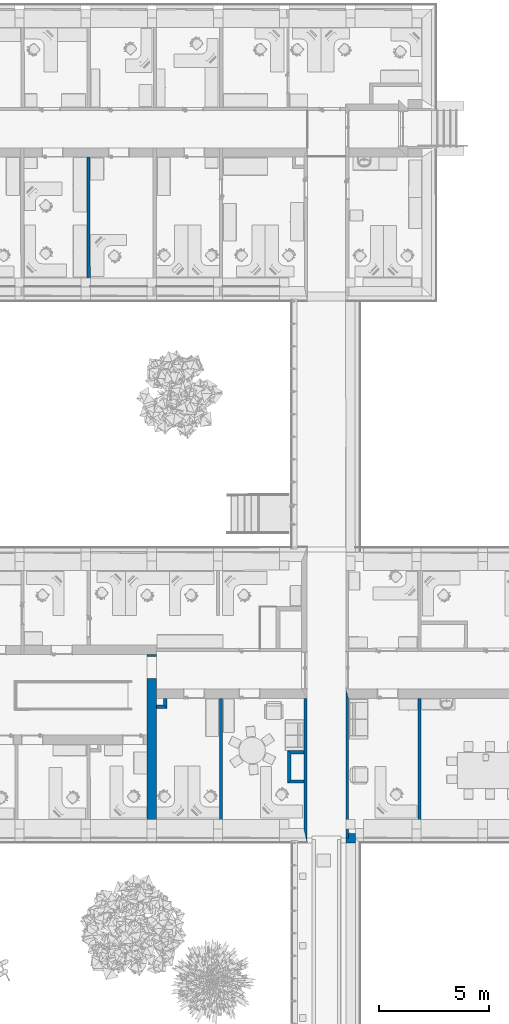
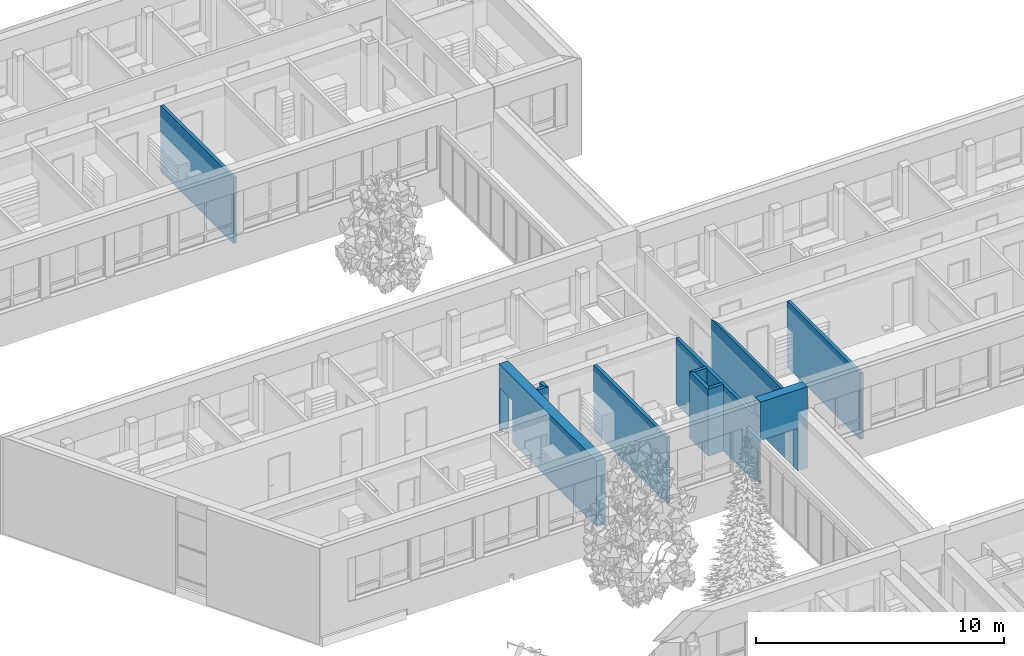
# One storey, part 12 of 194: 12 walls, 2 openings.
"""IFC2X3 building model written with IfcOpenShell, lengths in millimetres."""

from ifc_helpers import new_model, entity, si_unit, converted_unit, derived_unit, money_unit, direction, frame, origin_with_axes, origin_2d_with_axis, place, context, subcontext, project, spatial, polyline, rectangle, outline, extrude, material, layer, layer_set, layer_usage, type_object, element, save


model = new_model("IFC2X3")

# Units and contexts
model_context = context("Model", 3, precision=1e-05, world=origin_with_axes(), true_north=direction((0.0, 1.0)))
body_context = subcontext(model_context, "Body", "Model", "MODEL_VIEW")
ifc_project = project(units=[si_unit("LENGTHUNIT", "METRE", prefix="MILLI"), si_unit("AREAUNIT", "SQUARE_METRE"), si_unit("VOLUMEUNIT", "CUBIC_METRE"), converted_unit("PLANEANGLEUNIT", "DEGREE", entity("IfcPlaneAngleMeasure", 0.0174532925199), si_unit("PLANEANGLEUNIT", "RADIAN"), dimensions=[0, 0, 0, 0, 0, 0, 0]), si_unit("SOLIDANGLEUNIT", "STERADIAN"), money_unit("EUR"), converted_unit("TIMEUNIT", "Year", entity("IfcTimeMeasure", 31556926.0), si_unit("TIMEUNIT", "SECOND"), dimensions=[0, 0, 1, 0, 0, 0, 0]), si_unit("MASSUNIT", "GRAM", prefix="KILO"), si_unit("THERMODYNAMICTEMPERATUREUNIT", "DEGREE_CELSIUS"), si_unit("LUMINOUSINTENSITYUNIT", "LUMEN"), si_unit("ENERGYUNIT", "JOULE", prefix="MEGA"), derived_unit("THERMALCONDUCTANCEUNIT", [(si_unit("POWERUNIT", "WATT"), 1), (si_unit("LENGTHUNIT", "METRE"), -1), (si_unit("THERMODYNAMICTEMPERATUREUNIT", "KELVIN"), -1)]), derived_unit("SPECIFICHEATCAPACITYUNIT", [(si_unit("ENERGYUNIT", "JOULE"), 1), (si_unit("MASSUNIT", "GRAM", prefix="KILO"), -1), (si_unit("THERMODYNAMICTEMPERATUREUNIT", "KELVIN"), -1)]), derived_unit("MASSDENSITYUNIT", [(si_unit("MASSUNIT", "GRAM", prefix="KILO"), 1), (si_unit("VOLUMEUNIT", "CUBIC_METRE"), -1)])], contexts=[model_context])

# Site, building, storey
site_placement = place(None, origin_with_axes())
site = spatial("IfcSite", under=ifc_project, at=site_placement, Name="Site", CompositionType="ELEMENT")
building_placement = place(site_placement, origin_with_axes())
building = spatial("IfcBuilding", under=site, at=building_placement, Name="Building", CompositionType="ELEMENT")
storey_placement = place(building_placement, frame((0.0, 0.0, 3000.0), z_axis=(0.0, 0.0, 1.0), x_axis=(1.0, 0.0, 0.0)))
storey = spatial("IfcBuildingStorey", under=building, at=storey_placement, Name="2 KORRUS", CompositionType="ELEMENT", Elevation=3000.0)

# Wall
ifc_material_1 = material(Name="Kivi -Ol.Olev Konstruktsioon")
ifc_layer_1 = layer(ifc_material_1, 150.0, ventilated="UNKNOWN")
ifc_layer_set_1 = layer_set([ifc_layer_1], Name="ol.olev ss 150")
ifc_layer_usage_1 = layer_usage(ifc_layer_set_1, "AXIS2", "NEGATIVE", 0.0)
wall_type_1 = type_object("IfcWallType", Name="SW - 022", PredefinedType="NOTDEFINED")
wall_1_placement = place(storey_placement, frame((28150.3491742, 65630.0283559, 0.0), z_axis=(0.0, 0.0, 1.0), x_axis=(0.000613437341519, -0.999999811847, 0.0)))
element("IfcWallStandardCase", 1, at=wall_1_placement, inside=storey, type_object=wall_type_1, material=ifc_layer_usage_1, Name="ol.olev ss 150", context=body_context, shape_type="SweptSolid", body=[
    extrude(outline(polyline([(419.908063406, -150.0), (6292.32271742, -150.0), (6292.39356159, 0.0), (420.000079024, 0.0), (419.908063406, -150.0)])), origin_with_axes(), (0.0, 0.0, 1.0), 3250.0),
])

# Wall, opening
ifc_layer_2 = layer(ifc_material_1, 420.0, ventilated="UNKNOWN")
ifc_layer_set_2 = layer_set([ifc_layer_2], Name="ol.olev ss 420")
ifc_layer_usage_2 = layer_usage(ifc_layer_set_2, "AXIS2", "POSITIVE", -420.0)
wall_2_placement = place(storey_placement, frame((30735.3687563, 34350.7085621, 0.0), z_axis=(0.0, 0.0, 1.0), x_axis=(0.0, 1.0, 0.0)))
wall_2 = element("IfcWallStandardCase", 2, at=wall_2_placement, inside=storey, type_object=wall_type_1, material=ifc_layer_usage_2, Name="ol.olev ss 420", context=body_context, shape_type="SweptSolid", body=[
    extrude(outline(polyline([(430.035803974, -420.0), (8319.83355742, -420.0), (8319.49869607, 0.0), (430.000001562, 0.0), (430.035803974, -420.0)])), origin_with_axes(), (0.0, 0.0, 1.0), 3250.0),
])
opening_1_placement = place(wall_2_placement, frame((7721.8960895, 0.0, 0.0), z_axis=(0.0, 0.0, 1.0), x_axis=(1.0, 0.0, 0.0)))
element("IfcOpeningElement", 3, at=opening_1_placement, cuts=wall_2, Name="Background;  Objekti nimi: Simple Door Opening", context=body_context, shape_type="SweptSolid", body=[
    extrude(rectangle(XDim=1000.0, YDim=2100.0, at=origin_2d_with_axis()), frame((0.0, 0.0, 1050.0), z_axis=(0.0, -1.0, 0.0), x_axis=(1.0, 0.0, 0.0)), (0.0, 0.0, -1.0), 420.0),
    extrude(rectangle(XDim=1000.0, YDim=2100.0, at=origin_2d_with_axis()), frame((0.0, 0.0, 1050.0), z_axis=(0.0, 1.0, 0.0), x_axis=(1.0, 0.0, 0.0)), (0.0, 0.0, -1.0), 420.0),
])

# Walls
ifc_layer_usage_3 = layer_usage(ifc_layer_set_1, "AXIS2", "NEGATIVE", 0.0)
wall_3_placement = place(storey_placement, frame((43155.2200364, 41101.6242698, 0.0), z_axis=(0.0, 0.0, 1.0), x_axis=(0.0, -1.0, 0.0)))
element("IfcWallStandardCase", 4, at=wall_3_placement, inside=storey, type_object=wall_type_1, material=ifc_layer_usage_3, Name="ol.olev ss 150", context=body_context, shape_type="SweptSolid", body=[
    extrude(outline(polyline([(420.0, -150.0), (6319.81045634, -150.0), (6319.79766976, 0.0), (420.0, 0.0), (420.0, -150.0)])), origin_with_axes(), (0.0, 0.0, 1.0), 3250.0),
])
ifc_layer_3 = layer(ifc_material_1, 120.0, ventilated="UNKNOWN")
ifc_layer_set_3 = layer_set([ifc_layer_3], Name="ol.olev ss 120")
ifc_layer_usage_4 = layer_usage(ifc_layer_set_3, "AXIS2", "POSITIVE", 0.0)
wall_4_placement = place(storey_placement, frame((39735.1743177, 41101.6242698, 0.0), z_axis=(0.0, 0.0, 1.0), x_axis=(0.0, -1.0, 0.0)))
element("IfcWallStandardCase", 5, at=wall_4_placement, inside=storey, type_object=wall_type_1, material=ifc_layer_usage_4, Name="ol.olev ss 120", context=body_context, shape_type="SweptSolid", body=[
    extrude(outline(polyline([(0.0, 0.0), (6750.37976661, 0.0), (6750.37976661, 120.0), (420.0, 120.0), (0.0, 0.0)])), origin_with_axes(), (0.0, 0.0, 1.0), 3250.0),
])
ifc_layer_usage_5 = layer_usage(ifc_layer_set_1, "AXIS2", "NEGATIVE", 0.0)
wall_5_placement = place(storey_placement, frame((37983.8520141, 41101.6242698, 0.0), z_axis=(0.0, 0.0, 1.0), x_axis=(0.0, -1.0, 0.0)))
element("IfcWallStandardCase", 6, at=wall_5_placement, inside=storey, type_object=wall_type_1, material=ifc_layer_usage_5, Name="ol.olev ss 150", context=body_context, shape_type="SweptSolid", body=[
    extrude(outline(polyline([(420.0, -150.0), (6320.31060425, -150.0), (6970.29782003, 0.0), (420.0, 0.0), (420.0, -150.0)])), origin_with_axes(), (0.0, 0.0, 1.0), 3250.0),
])
ifc_layer_usage_6 = layer_usage(ifc_layer_set_1, "AXIS2", "NEGATIVE", 0.0)
wall_6_placement = place(storey_placement, frame((34155.2433806, 41101.6242698, 0.0), z_axis=(0.0, 0.0, 1.0), x_axis=(-1.16660409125e-05, -0.999999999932, 0.0)))
element("IfcWallStandardCase", 7, at=wall_6_placement, inside=storey, type_object=wall_type_1, material=ifc_layer_usage_6, Name="ol.olev ss 150", context=body_context, shape_type="SweptSolid", body=[
    extrude(outline(polyline([(420.001749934, -150.0), (6320.63872616, -150.0), (6320.62418967, 0.0), (420.000000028, 0.0), (420.001749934, -150.0)])), origin_with_axes(), (0.0, 0.0, 1.0), 3250.0),
])

# Wall, opening
ifc_layer_usage_7 = layer_usage(ifc_layer_set_2, "AXIS2", "POSITIVE", 0.0)
wall_7_placement = place(storey_placement, frame((37983.8707677, 34131.3264514, 0.0), z_axis=(0.0, 0.0, 1.0), x_axis=(1.0, 0.0, 0.0)))
wall_7 = element("IfcWallStandardCase", 8, at=wall_7_placement, inside=storey, type_object=wall_type_1, material=ifc_layer_usage_7, Name="ol.olev ss 420", context=body_context, shape_type="SweptSolid", body=[
    extrude(outline(polyline([(0.0, 0.0), (2180.59106043, 0.0), (2180.59106043, 420.0), (0.0, 420.0), (0.0, 0.0)])), origin_with_axes(), (0.0, 0.0, 1.0), 4000.0),
])
opening_2_placement = place(wall_7_placement, frame((875.22967789, 0.0, 0.0), z_axis=(0.0, 0.0, 1.0), x_axis=(1.0, 0.0, 0.0)))
element("IfcOpeningElement", 9, at=opening_2_placement, cuts=wall_7, Name="Background;  Objekti nimi: Rectangular Door Opening 22", context=body_context, shape_type="SweptSolid", body=[
    extrude(rectangle(XDim=1750.49515819, YDim=2100.0, at=origin_2d_with_axis()), frame((0.0, 420.0, 1050.0), z_axis=(0.0, 1.0, 0.0), x_axis=(-1.0, 0.0, 0.0)), (0.0, 0.0, -1.0), 1260.0),
])

# Walls
ifc_material_2 = material(Name="Kivi -  Uus Konstruktsioon")
ifc_layer_4 = layer(ifc_material_2, 150.0, ventilated="UNKNOWN")
ifc_layer_set_4 = layer_set([ifc_layer_4], Name="uus ss 150")
ifc_layer_usage_8 = layer_usage(ifc_layer_set_4, "AXIS2", "NEGATIVE", 0.0)
wall_type_2 = type_object("IfcWallType", Name="SS-1", PredefinedType="NOTDEFINED")
wall_8_placement = place(storey_placement, frame((30735.3687563, 40378.5680471, 0.0), z_axis=(0.0, 0.0, 1.0), x_axis=(1.0, 0.0, 0.0)))
element("IfcWallStandardCase", 10, at=wall_8_placement, inside=storey, type_object=wall_type_2, material=ifc_layer_usage_8, Name="sahti sein", context=body_context, shape_type="SweptSolid", body=[
    extrude(outline(polyline([(420.0, -150.0), (898.19584534, -150.0), (748.19584534, 0.0), (420.0, 0.0), (420.0, -150.0)])), origin_with_axes(), (0.0, 0.0, 1.0), 3294.8304041),
])
ifc_layer_usage_9 = layer_usage(ifc_layer_set_4, "AXIS2", "NEGATIVE", 0.0)
wall_9_placement = place(storey_placement, frame((31483.5646016, 40378.5680471, 0.0), z_axis=(0.0, 0.0, 1.0), x_axis=(0.0, 1.0, 0.0)))
element("IfcWallStandardCase", 11, at=wall_9_placement, inside=storey, type_object=wall_type_2, material=ifc_layer_usage_9, Name="sahti sein", context=body_context, shape_type="SweptSolid", body=[
    extrude(outline(polyline([(-150.0, -150.0), (303.056222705, -150.0), (303.056222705, 0.0), (0.0, 0.0), (-150.0, -150.0)])), origin_with_axes(), (0.0, 0.0, 1.0), 3294.8304041),
])
ifc_layer_usage_10 = layer_usage(ifc_layer_set_4, "AXIS2", "NEGATIVE", 0.0)
wall_10_placement = place(storey_placement, frame((37983.8520141, 36838.4328024, 0.0), z_axis=(0.0, 0.0, 1.0), x_axis=(-1.0, 0.0, 0.0)))
element("IfcWallStandardCase", 12, at=wall_10_placement, inside=storey, type_object=wall_type_2, material=ifc_layer_usage_10, Name="sahti sein", context=body_context, shape_type="SweptSolid", body=[
    extrude(outline(polyline([(150.0, -150.0), (729.941688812, -150.0), (879.941688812, 0.0), (150.0, 0.0), (150.0, -150.0)])), origin_with_axes(), (0.0, 0.0, 1.0), 3294.8304041),
])
ifc_layer_usage_11 = layer_usage(ifc_layer_set_4, "AXIS2", "NEGATIVE", 0.0)
wall_11_placement = place(storey_placement, frame((37103.9103253, 36838.4328024, 0.0), z_axis=(0.0, 0.0, 1.0), x_axis=(0.0, 1.0, 0.0)))
element("IfcWallStandardCase", 13, at=wall_11_placement, inside=storey, type_object=wall_type_2, material=ifc_layer_usage_11, Name="sahti sein", context=body_context, shape_type="SweptSolid", body=[
    extrude(outline(polyline([(150.0, -150.0), (1326.53197824, -150.0), (1476.53197824, 0.0), (0.0, 0.0), (150.0, -150.0)])), origin_with_axes(), (0.0, 0.0, 1.0), 3294.8304041),
])
ifc_layer_usage_12 = layer_usage(ifc_layer_set_4, "AXIS2", "NEGATIVE", 0.0)
wall_12_placement = place(storey_placement, frame((37103.9103253, 38314.9647806, 0.0), z_axis=(0.0, 0.0, 1.0), x_axis=(1.0, 0.0, 0.0)))
element("IfcWallStandardCase", 14, at=wall_12_placement, inside=storey, type_object=wall_type_2, material=ifc_layer_usage_12, Name="sahti sein", context=body_context, shape_type="SweptSolid", body=[
    extrude(outline(polyline([(150.0, -150.0), (729.941688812, -150.0), (729.941688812, 0.0), (0.0, 0.0), (150.0, -150.0)])), origin_with_axes(), (0.0, 0.0, 1.0), 3294.8304041),
])

save(model, "model.ifc")
